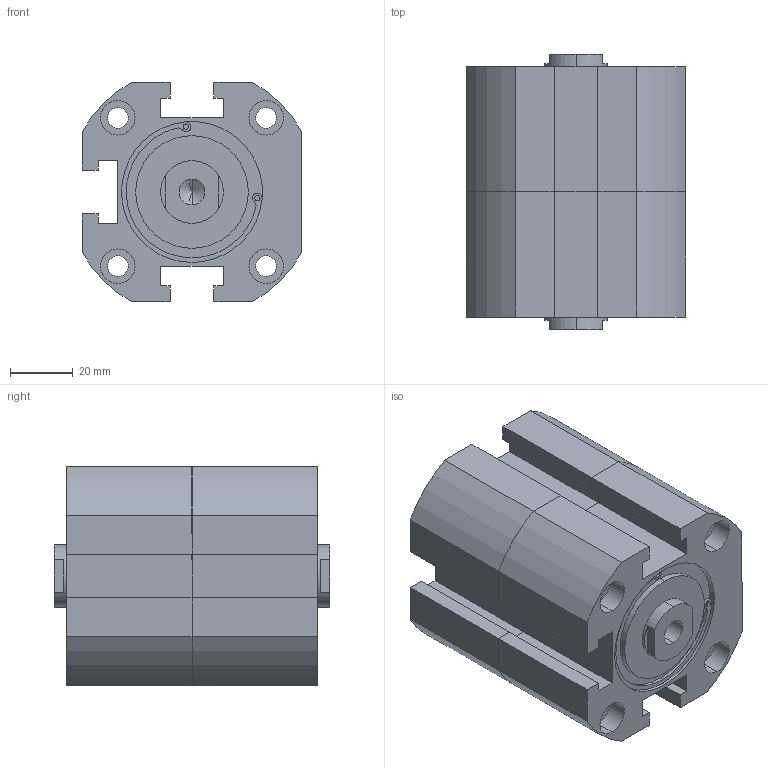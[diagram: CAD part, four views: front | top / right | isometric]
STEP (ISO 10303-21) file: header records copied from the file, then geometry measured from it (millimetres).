
FILE_DESCRIPTION (( 'STEP AP203' ), '1' );
FILE_NAME ('XCD7-50-10-10.STEP', '2016-08-05T01:40:22', ( '' ), ( '' ), 'SwSTEP 2.0', 'SolidWorks 2014', '' );
FILE_SCHEMA (( 'CONFIG_CONTROL_DESIGN' ));
Length unit declared in the file: millimetre
Products named in the file (2): XC#2-50-10; XCD7-50-10-10
Assembly tree (2 placements, depth 2):
  XCD7-50-10-10
    XC#2-50-10  x2
Bounding box: 70 x 88 x 70 mm (x, y, z)
Volume: 291719 mm3; surface area: 54629.4 mm2
Topology: 2 solids, 2 shells, 228 faces, 566 edges, 366 vertices
Faces by surface type: cylinder 108, plane 100, cone 20
Entity records: 3625 total; most frequent: DIRECTION 635, CARTESIAN_POINT 579, ORIENTED_EDGE 554, EDGE_CURVE 277, AXIS2_PLACEMENT_3D 239, VERTEX_POINT 183, LINE 157, VECTOR 157
